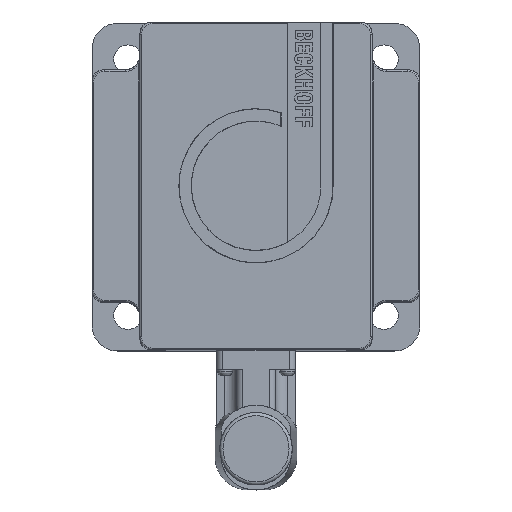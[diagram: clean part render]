
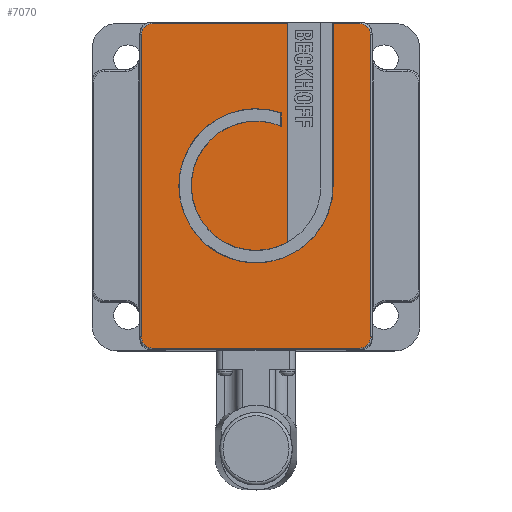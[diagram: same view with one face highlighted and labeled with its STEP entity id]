
A CAD part, top view. The second image highlights one B-rep face of the part: STEP entity #7070.
In plain terms, the highlighted planar face has unit normal (0, 0, 1).
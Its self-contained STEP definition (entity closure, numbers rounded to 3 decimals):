
#511=FACE_OUTER_BOUND('',#914,.T.);
#914=EDGE_LOOP('',(#5242,#5243,#5244,#5245,#5246,#5247,#5248,#5249,#5250,
#5251,#5252,#5253,#5254,#5255));
#1491=LINE('',#11846,#2083);
#1493=LINE('',#11854,#2085);
#1494=LINE('',#11866,#2086);
#1495=LINE('',#11874,#2087);
#1496=LINE('',#11878,#2088);
#1497=LINE('',#11882,#2089);
#1498=LINE('',#11886,#2090);
#1499=LINE('',#11889,#2091);
#2083=VECTOR('',#8885,10.);
#2085=VECTOR('',#8893,10.);
#2086=VECTOR('',#8900,10.);
#2087=VECTOR('',#8907,10.);
#2088=VECTOR('',#8910,10.);
#2089=VECTOR('',#8913,10.);
#2090=VECTOR('',#8916,10.);
#2091=VECTOR('',#8919,10.);
#2451=CIRCLE('',#7606,20.5);
#2452=CIRCLE('',#7609,24.5);
#2453=CIRCLE('',#7611,3.5);
#2454=CIRCLE('',#7612,3.5);
#2455=CIRCLE('',#7613,3.5);
#2456=CIRCLE('',#7614,3.5);
#3031=VERTEX_POINT('',#11843);
#3032=VERTEX_POINT('',#11845);
#3034=VERTEX_POINT('',#11851);
#3035=VERTEX_POINT('',#11853);
#3036=VERTEX_POINT('',#11859);
#3037=VERTEX_POINT('',#11865);
#3038=VERTEX_POINT('',#11873);
#3039=VERTEX_POINT('',#11875);
#3040=VERTEX_POINT('',#11877);
#3041=VERTEX_POINT('',#11879);
#3042=VERTEX_POINT('',#11881);
#3043=VERTEX_POINT('',#11883);
#3044=VERTEX_POINT('',#11885);
#3045=VERTEX_POINT('',#11887);
#3827=EDGE_CURVE('',#3032,#3031,#1491,.T.);
#3831=EDGE_CURVE('',#3035,#3034,#1493,.T.);
#3833=EDGE_CURVE('',#3036,#3035,#2451,.T.);
#3835=EDGE_CURVE('',#3037,#3036,#1494,.T.);
#3837=EDGE_CURVE('',#3031,#3037,#2452,.T.);
#3838=EDGE_CURVE('',#3038,#3034,#1495,.T.);
#3839=EDGE_CURVE('',#3039,#3038,#2453,.T.);
#3840=EDGE_CURVE('',#3040,#3039,#1496,.T.);
#3841=EDGE_CURVE('',#3041,#3040,#2454,.T.);
#3842=EDGE_CURVE('',#3042,#3041,#1497,.T.);
#3843=EDGE_CURVE('',#3043,#3042,#2455,.T.);
#3844=EDGE_CURVE('',#3044,#3043,#1498,.T.);
#3845=EDGE_CURVE('',#3045,#3044,#2456,.T.);
#3846=EDGE_CURVE('',#3032,#3045,#1499,.T.);
#5242=ORIENTED_EDGE('',*,*,#3827,.T.);
#5243=ORIENTED_EDGE('',*,*,#3837,.T.);
#5244=ORIENTED_EDGE('',*,*,#3835,.T.);
#5245=ORIENTED_EDGE('',*,*,#3833,.T.);
#5246=ORIENTED_EDGE('',*,*,#3831,.T.);
#5247=ORIENTED_EDGE('',*,*,#3838,.F.);
#5248=ORIENTED_EDGE('',*,*,#3839,.F.);
#5249=ORIENTED_EDGE('',*,*,#3840,.F.);
#5250=ORIENTED_EDGE('',*,*,#3841,.F.);
#5251=ORIENTED_EDGE('',*,*,#3842,.F.);
#5252=ORIENTED_EDGE('',*,*,#3843,.F.);
#5253=ORIENTED_EDGE('',*,*,#3844,.F.);
#5254=ORIENTED_EDGE('',*,*,#3845,.F.);
#5255=ORIENTED_EDGE('',*,*,#3846,.F.);
#6480=PLANE('',#7610);
#7070=ADVANCED_FACE('',(#511),#6480,.T.);
#7606=AXIS2_PLACEMENT_3D('',#11860,#8896,#8897);
#7609=AXIS2_PLACEMENT_3D('',#11871,#8903,#8904);
#7610=AXIS2_PLACEMENT_3D('',#11872,#8905,#8906);
#7611=AXIS2_PLACEMENT_3D('',#11876,#8908,#8909);
#7612=AXIS2_PLACEMENT_3D('',#11880,#8911,#8912);
#7613=AXIS2_PLACEMENT_3D('',#11884,#8914,#8915);
#7614=AXIS2_PLACEMENT_3D('',#11888,#8917,#8918);
#8885=DIRECTION('',(0.,-1.,0.));
#8893=DIRECTION('',(0.,1.,0.));
#8896=DIRECTION('center_axis',(0.,0.,
1.));
#8897=DIRECTION('ref_axis',(0.39,0.921,0.));
#8900=DIRECTION('',(0.,-1.,0.));
#8903=DIRECTION('center_axis',(0.,0.,
-1.));
#8904=DIRECTION('ref_axis',(-0.327,-0.945,0.));
#8905=DIRECTION('center_axis',(0.,0.,
1.));
#8906=DIRECTION('ref_axis',(-1.,0.,0.));
#8907=DIRECTION('',(1.,0.,0.));
#8908=DIRECTION('center_axis',(0.,0.,
-1.));
#8909=DIRECTION('ref_axis',(-0.707,0.707,0.));
#8910=DIRECTION('',(0.,1.,0.));
#8911=DIRECTION('center_axis',(0.,0.,
-1.));
#8912=DIRECTION('ref_axis',(-0.707,-0.707,0.));
#8913=DIRECTION('',(-1.,0.,0.));
#8914=DIRECTION('center_axis',(0.,0.,
-1.));
#8915=DIRECTION('ref_axis',(0.707,-0.707,0.));
#8916=DIRECTION('',(0.,-1.,0.));
#8917=DIRECTION('center_axis',(0.,0.,
-1.));
#8918=DIRECTION('ref_axis',(0.707,0.707,0.));
#8919=DIRECTION('',(1.,0.,0.));
#11843=CARTESIAN_POINT('',(24.5,0.,254.));
#11845=CARTESIAN_POINT('',(24.5,51.5,254.));
#11846=CARTESIAN_POINT('',(24.5,0.,254.));
#11851=CARTESIAN_POINT('',(10.,51.5,254.));
#11853=CARTESIAN_POINT('',(10.,-17.896,254.));
#11854=CARTESIAN_POINT('',(10.,26.225,254.));
#11859=CARTESIAN_POINT('',(8.,18.875,254.));
#11860=CARTESIAN_POINT('Origin',(0.,0.,
254.));
#11865=CARTESIAN_POINT('',(8.,23.157,254.));
#11866=CARTESIAN_POINT('',(8.,9.437,254.));
#11871=CARTESIAN_POINT('Origin',(0.,0.,
254.));
#11872=CARTESIAN_POINT('Origin',(0.,0.,
254.));
#11873=CARTESIAN_POINT('',(-32.866,51.5,254.));
#11874=CARTESIAN_POINT('',(-16.433,51.5,254.));
#11875=CARTESIAN_POINT('',(-36.366,48.,254.));
#11876=CARTESIAN_POINT('Origin',(-32.866,48.,254.));
#11877=CARTESIAN_POINT('',(-36.366,-48.,254.));
#11878=CARTESIAN_POINT('',(-36.366,20.683,254.));
#11879=CARTESIAN_POINT('',(-32.866,-51.5,254.));
#11880=CARTESIAN_POINT('Origin',(-32.866,-48.,254.));
#11881=CARTESIAN_POINT('',(32.866,-51.5,254.));
#11882=CARTESIAN_POINT('',(16.433,-51.5,254.));
#11883=CARTESIAN_POINT('',(36.366,-48.,254.));
#11884=CARTESIAN_POINT('Origin',(32.866,-48.,254.));
#11885=CARTESIAN_POINT('',(36.366,48.,254.));
#11886=CARTESIAN_POINT('',(36.366,24.,254.));
#11887=CARTESIAN_POINT('',(32.866,51.5,254.));
#11888=CARTESIAN_POINT('Origin',(32.866,48.,254.));
#11889=CARTESIAN_POINT('',(-16.433,51.5,254.));
